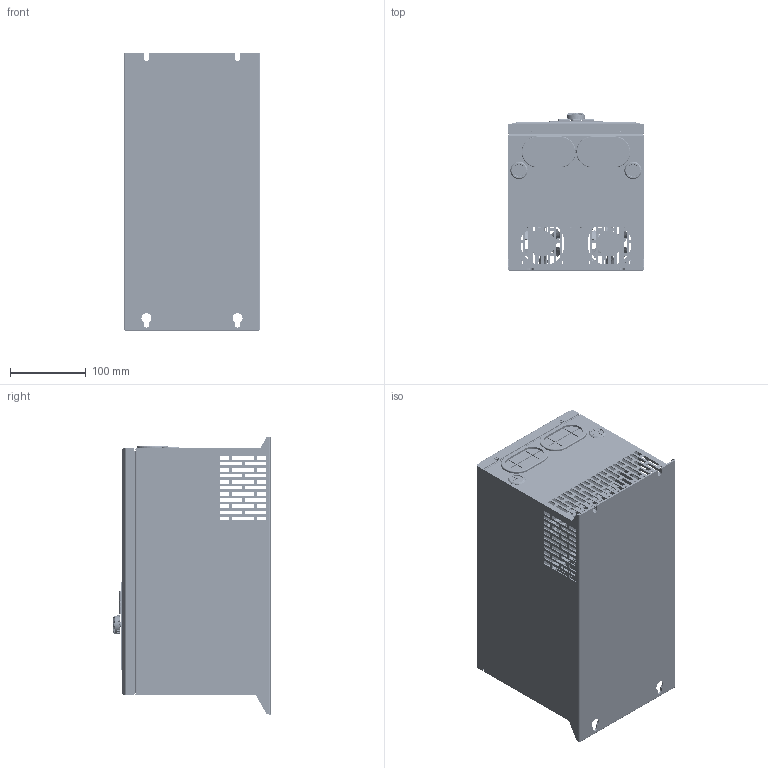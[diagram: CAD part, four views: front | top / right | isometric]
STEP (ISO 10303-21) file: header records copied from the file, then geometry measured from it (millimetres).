
FILE_DESCRIPTION(('STEP AP203'), '1');
FILE_NAME('BU-200-4 _ Òîðìîçíîé ìîäóëü', '2026-04-20T12:58:26', ('admin'), (''), 'C3D Converter', 'C3D Toolkit', '');
FILE_SCHEMA(('CONFIG_CONTROL_DESIGN'));
Length unit declared in the file: millimetre
Products named in the file (52): BU-200-4; CBR600-4T630-SPCC_ASM; CBR600-4T630-201_ASM; CBR600-4T630-301_ASM; CBR600-4T630-301; CBR600-4T630-302_ASM; CBR600-4T630-302; TPS-4-10-ZC; BSO-M4-10-ZC; CBR600-4T630-303_ASM; CBR600-4T630-303; S-M4-ZC; CBR600-4T630-304_ASM; CBR600-4T630-304; CBR600-4T630-305_ASM; CBR600-4T630-305; CBR600-4T630-402_ASM; CBR600-4T630-402; CBR600-4T630-403_ASM; CBR600-4T630-403; CBR600-4T630-404_ASM; CBR600-4T630-404; SO-3R5M3-6-ZC; CBR600-4T630-405_ASM; CBR600-4T630-405; S-M5-ZC; CBR600-4T630-SCREW_ASM; M8X20_GB9074_13_ASM; M8X20_GB29_2; D8_GB9074_26; D8_GB9074_24; CBR600-4T630-DEVICE_ASM; GM600-JP_ASM; GM600-JP-SJ_ASM; GM600-JP-SJ-01; GM600-JP-SJ-02; GM600-JP-SJ-03; GM600-JP-SJ-04; GM600-JP-PCB_ASM; GM600-JP-PCB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
Assembly tree (101 placements, depth 5):
  BU-200-4
    CBR600-4T630-SPCC_ASM
      CBR600-4T630-201_ASM
        CBR600-4T630-301_ASM
          CBR600-4T630-301
        CBR600-4T630-302_ASM
          CBR600-4T630-302
          TPS-4-10-ZC  x2
          BSO-M4-10-ZC  x6
        CBR600-4T630-303_ASM
          CBR600-4T630-303
          S-M4-ZC  x2
        CBR600-4T630-304_ASM  x2
          CBR600-4T630-304
          S-M4-ZC
        CBR600-4T630-305_ASM  x2
          CBR600-4T630-305
          S-M4-ZC
      CBR600-4T630-402_ASM
        CBR600-4T630-402
        TPS-4-10-ZC  x2
      CBR600-4T630-403_ASM
        CBR600-4T630-403
        S-M4-ZC  x11
      CBR600-4T630-404_ASM
        CBR600-4T630-404
        SO-3R5M3-6-ZC  x4
      CBR600-4T630-405_ASM
        CBR600-4T630-405
        S-M5-ZC  x9
    CBR600-4T630-SCREW_ASM
      M8X20_GB9074_13_ASM  x4
        M8X20_GB29_2
        D8_GB9074_26
        D8_GB9074_24
    CBR600-4T630-DEVICE_ASM
      GM600-JP_ASM
        GM600-JP-SJ_ASM
          GM600-JP-SJ-01
          GM600-JP-SJ-02
          GM600-JP-SJ-03
          GM600-JP-SJ-04
        GM600-JP-PCB_ASM
          GM600-JP-PCB
          PCB
          RJ45-GC186556
          LED50361
          DWQ
          ANJIAN  x5
        GM600-JP-SJ-05
        GM600-JP-SJ-06
      FAN_6025  x2
      ACTB010-B  x4
      HXQ_18  x2
      352-05_8  x2
    CBR600-4T630-401
Bounding box: 180 x 206.8 x 366.2 mm (x, y, z)
Volume: 1463827.2 mm3; surface area: 1603929.7 mm2
Topology: 96 solids, 96 shells, 16265 faces, 43947 edges, 28620 vertices
Faces by surface type: plane 12991, cylinder 1650, bspline 1022, cone 368, torus 126, extrusion 68, sphere 30, revolution 10
Full cylindrical faces by diameter (mm): 0.5 x18, 0.9 x8, 1 x24, 1.5 x1, 2 x8, 2.3 x5, 2.54 x1, 3 x14, 3.3 x1, 3.5 x5, 3.8 x4, 4 x41, 4.3 x16, 4.8 x6, 5 x34, 5.38 x21, 5.39 x4, 5.4 x27, 5.5 x17, 6 x23, 6.38 x9, 6.4 x1, 6.5 x4, 6.8 x1, 7.11 x6, 8 x33, 9 x9, 9.2 x1, 10 x4, 10.4 x4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
Entity records: 374459 total; most frequent: CARTESIAN_POINT 139233, ORIENTED_EDGE 38514, DIRECTION 30423, EDGE_CURVE 19257, VECTOR 13341, LINE 13273, VERTEX_POINT 12459, AXIS2_PLACEMENT_3D 8536
